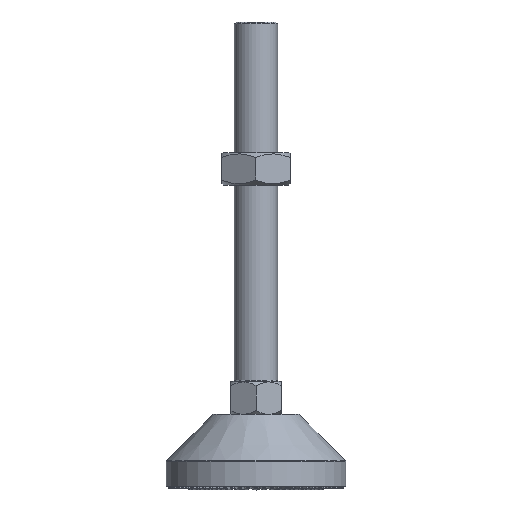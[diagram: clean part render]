
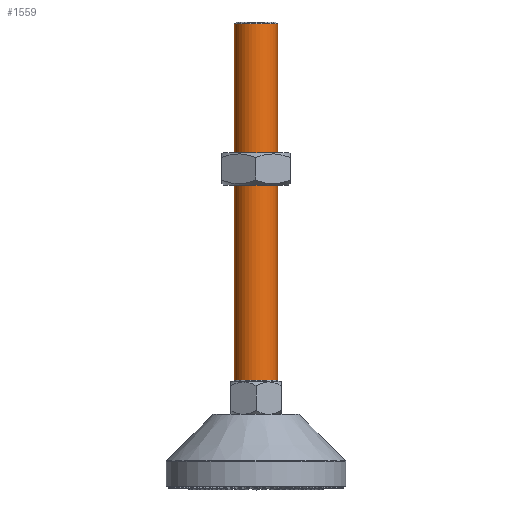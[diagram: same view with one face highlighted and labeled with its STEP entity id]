
A CAD part, top view. The second image highlights one B-rep face of the part: STEP entity #1559.
In plain terms, the highlighted cylindrical face has radius 6 mm (diameter 12 mm), a partial arc.
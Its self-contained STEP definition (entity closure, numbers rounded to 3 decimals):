
#263 = EDGE_LOOP ( 'NONE', ( #18388, #16666, #8606, #3334 ) ) ;
#359 = AXIS2_PLACEMENT_3D ( 'NONE', #7734, #19762, #9477 ) ;
#594 = AXIS2_PLACEMENT_3D ( 'NONE', #12985, #2673, #14715 ) ;
#1138 = VECTOR ( 'NONE', #13490, 1000. ) ;
#1559 = ADVANCED_FACE ( 'NONE', ( #9703 ), #4579, .T. ) ;
#1743 = DIRECTION ( 'NONE',  ( 0., 0., -1. ) ) ;
#2649 = VECTOR ( 'NONE', #11590, 1000. ) ;
#2673 = DIRECTION ( 'NONE',  ( 0., 0., -1. ) ) ;
#3334 = ORIENTED_EDGE ( 'NONE', *, *, #11877, .T. ) ;
#4579 = CYLINDRICAL_SURFACE ( 'NONE', #10766, 6. ) ;
#5524 = CIRCLE ( 'NONE', #359, 6. ) ;
#6601 = CARTESIAN_POINT ( 'NONE',  ( -6., 0.809, 99.5 ) ) ;
#7734 = CARTESIAN_POINT ( 'NONE',  ( 0., 0.809, 0.5 ) ) ;
#8606 = ORIENTED_EDGE ( 'NONE', *, *, #13827, .T. ) ;
#9477 = DIRECTION ( 'NONE',  ( 1., 0., 0. ) ) ;
#9703 = FACE_OUTER_BOUND ( 'NONE', #263, .T. ) ;
#9824 = CARTESIAN_POINT ( 'NONE',  ( 6., 0.809, 0.5 ) ) ;
#10333 = LINE ( 'NONE', #11749, #1138 ) ;
#10766 = AXIS2_PLACEMENT_3D ( 'NONE', #13819, #1743, #12060 ) ;
#11590 = DIRECTION ( 'NONE',  ( 0., 0., -1. ) ) ;
#11749 = CARTESIAN_POINT ( 'NONE',  ( 6., 0.809, 100. ) ) ;
#11801 = LINE ( 'NONE', #13316, #2649 ) ;
#11877 = EDGE_CURVE ( 'NONE', #21559, #13139, #5524, .T. ) ;
#12060 = DIRECTION ( 'NONE',  ( -1., 0., 0. ) ) ;
#12949 = VERTEX_POINT ( 'NONE', #21712 ) ;
#12985 = CARTESIAN_POINT ( 'NONE',  ( 0., 0.809, 99.5 ) ) ;
#13139 = VERTEX_POINT ( 'NONE', #9824 ) ;
#13316 = CARTESIAN_POINT ( 'NONE',  ( -6., 0.809, 100. ) ) ;
#13490 = DIRECTION ( 'NONE',  ( 0., 0., -1. ) ) ;
#13819 = CARTESIAN_POINT ( 'NONE',  ( 0., 0.809, 100. ) ) ;
#13827 = EDGE_CURVE ( 'NONE', #17169, #21559, #11801, .T. ) ;
#14715 = DIRECTION ( 'NONE',  ( 1., 0., 0. ) ) ;
#16330 = EDGE_CURVE ( 'NONE', #12949, #17169, #21360, .T. ) ;
#16666 = ORIENTED_EDGE ( 'NONE', *, *, #16330, .T. ) ;
#17114 = EDGE_CURVE ( 'NONE', #12949, #13139, #10333, .T. ) ;
#17169 = VERTEX_POINT ( 'NONE', #6601 ) ;
#17614 = CARTESIAN_POINT ( 'NONE',  ( -6., 0.809, 0.5 ) ) ;
#18388 = ORIENTED_EDGE ( 'NONE', *, *, #17114, .F. ) ;
#19762 = DIRECTION ( 'NONE',  ( 0., 0., 1. ) ) ;
#21360 = CIRCLE ( 'NONE', #594, 6. ) ;
#21559 = VERTEX_POINT ( 'NONE', #17614 ) ;
#21712 = CARTESIAN_POINT ( 'NONE',  ( 6., 0.809, 99.5 ) ) ;
